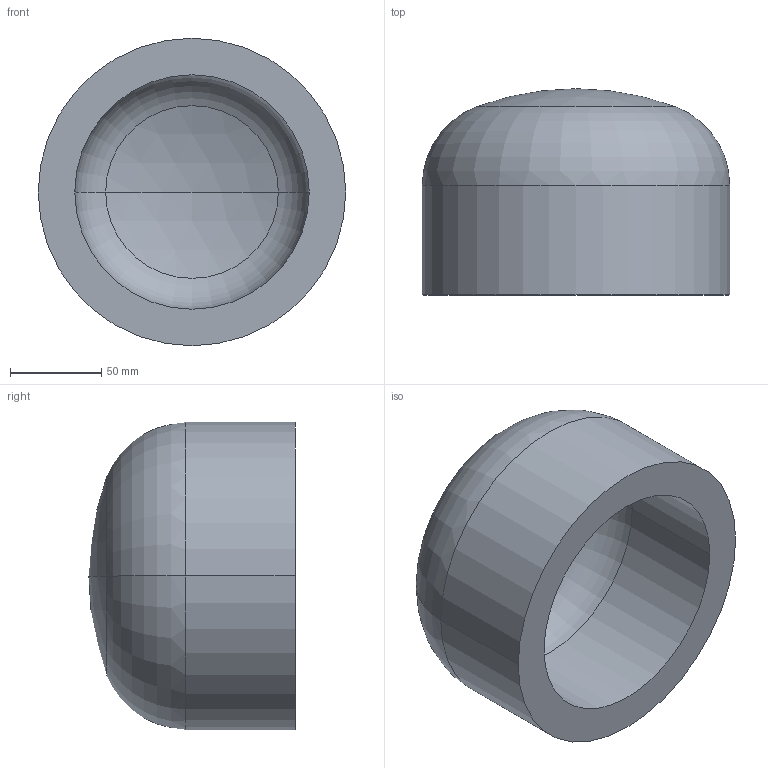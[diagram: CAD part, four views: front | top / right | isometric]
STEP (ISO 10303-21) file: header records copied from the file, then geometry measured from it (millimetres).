
FILE_DESCRIPTION (( 'STEP AP203' ), '1' );
FILE_NAME ('DIN 28013 Korbbogenform_-_Boden DIN 28013 - 168,3 x 60 - I - s=20.step', '2016-07-01T07:42:05', ( '' ), ( '' ), 'SwSTEP 2.0', 'SolidWorks 2013', '' );
FILE_SCHEMA (( 'CONFIG_CONTROL_DESIGN' ));
Length unit declared in the file: millimetre
Products named in the file (1): DIN 28013 Korbbogenform_-_Boden DIN 28013 - 168,3 x 60 - I - s=20
Bounding box: 168.3 x 112.89 x 168.3 mm (x, y, z)
Volume: 1092324.4 mm3; surface area: 119388.2 mm2
Topology: 1 solids, 1 shells, 13 faces, 24 edges, 14 vertices
Faces by surface type: torus 4, cylinder 4, sphere 4, plane 1
Entity records: 407 total; most frequent: DIRECTION 72, CARTESIAN_POINT 52, ORIENTED_EDGE 48, AXIS2_PLACEMENT_3D 34, EDGE_CURVE 24, CIRCLE 20, EDGE_LOOP 14, VERTEX_POINT 14
